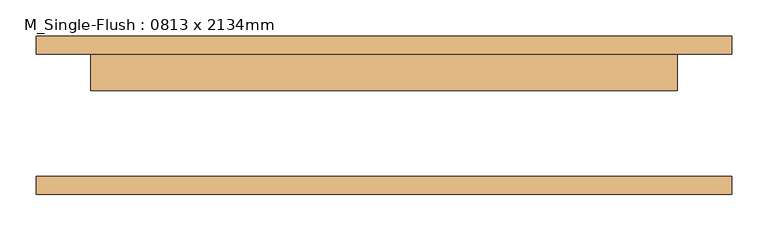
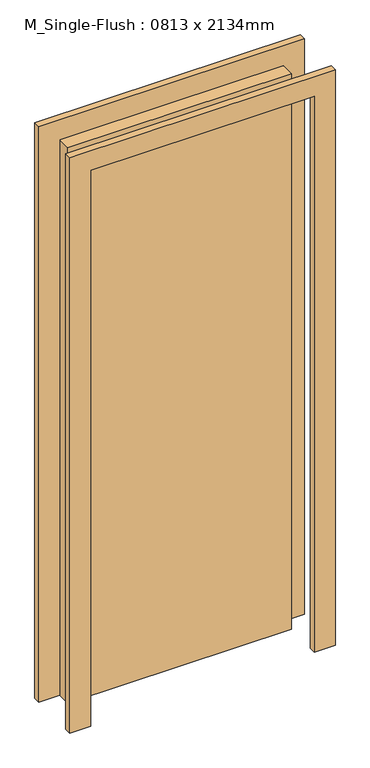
"""IFC4 building model written with IfcOpenShell, lengths in millimetres: door geometry, M_Single-Flush : 0813 x 2134mm."""

from ifc_helpers import new_model, si_unit, frame, origin, origin_with_axes, place, context, project, spatial, polyline, outline, extrude, source, transform, mapped, element, save


def m_single_flush_0813_x_2134mm_45de9fe4(model_context):
    return source(origin(), model_context, "Body", "SweptSolid", [
        extrude(outline(polyline([(2210.0, -482.5), (0.0, -482.5), (0.0, -406.5), (2134.0, -406.5), (2134.0, 406.5), (0.0, 406.5), (0.0, 482.5), (2210.0, 482.5), (2210.0, -482.5)])), frame((0.0, 85.0, 0.0), z_axis=(0.0, 1.0, 0.0), x_axis=(0.0, 0.0, 1.0)), (0.0, 0.0, 1.0), 25.0),
        extrude(outline(polyline([(2210.0, 482.5), (2210.0, -482.5), (0.0, -482.5), (0.0, -406.5), (2134.0, -406.5), (2134.0, 406.5), (0.0, 406.5), (0.0, 482.5), (2210.0, 482.5)])), frame((0.0, -110.0, 0.0), z_axis=(0.0, 1.0, 0.0), x_axis=(0.0, 0.0, 1.0)), (0.0, 0.0, 1.0), 25.0),
        extrude(outline(polyline([(406.5, 34.0), (-406.5, 34.0), (-406.5, 85.0), (406.5, 85.0), (406.5, 34.0)])), origin_with_axes(), (0.0, 0.0, 1.0), 2134.0),
    ])


if __name__ == "__main__":
    model = new_model("IFC4")
    model_context = context("Model", 3, world=origin())
    ifc_project = project(units=[si_unit("LENGTHUNIT", "METRE", prefix="MILLI")], contexts=[model_context])
    site = spatial("IfcSite", under=ifc_project)
    building = spatial("IfcBuilding", under=site)
    placement = place(None, origin())
    m_single_flush_0813_x_2134mm_shape = m_single_flush_0813_x_2134mm_45de9fe4(model_context)
    element("IfcDoor", 1, ObjectType="M_Single-Flush : 0813 x 2134mm", at=placement, inside=building, context=model_context, shape_type="MappedRepresentation", body=[
        mapped(m_single_flush_0813_x_2134mm_shape, transform((0.0, 0.0, 0.0), x_axis=(1.0, 0.0, 0.0), y_axis=(0.0, 1.0, 0.0), z_axis=(0.0, 0.0, 1.0))),
    ])
    save(model, "model.ifc")
